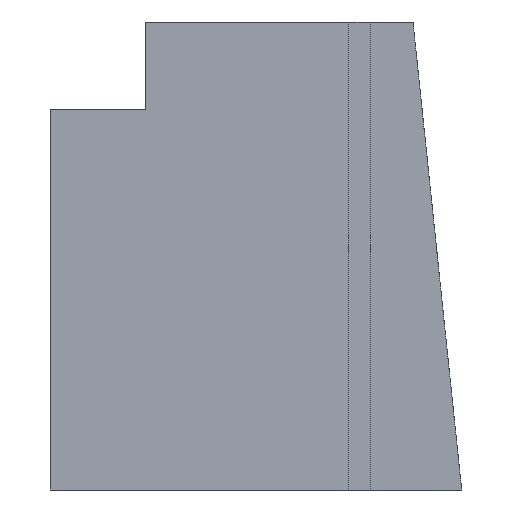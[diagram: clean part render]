
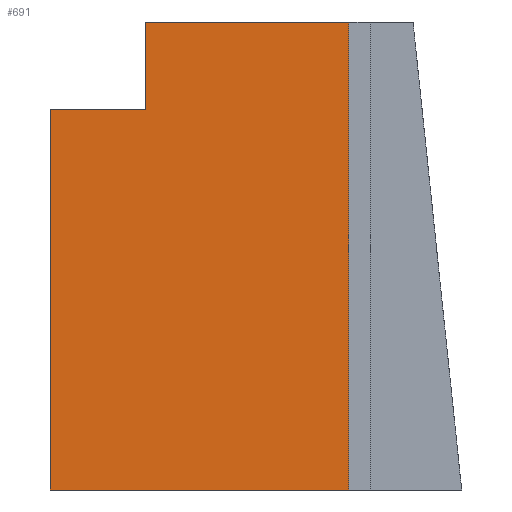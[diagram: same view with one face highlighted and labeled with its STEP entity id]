
A CAD part, left-side view. The second image highlights one B-rep face of the part: STEP entity #691.
In plain terms, the highlighted planar face has unit normal (-1, 0, 0).
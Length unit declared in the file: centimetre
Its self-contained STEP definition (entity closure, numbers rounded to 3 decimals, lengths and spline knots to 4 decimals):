
#9 = LINE ( 'NONE', #754, #207 ) ;
#11 = VERTEX_POINT ( 'NONE', #129 ) ;
#27 = CARTESIAN_POINT ( 'NONE',  ( 0., 1000., 1000. ) ) ;
#57 = ORIENTED_EDGE ( 'NONE', *, *, #570, .F. ) ;
#88 = DIRECTION ( 'NONE',  ( 0., 0., 1. ) ) ;
#110 = FACE_OUTER_BOUND ( 'NONE', #279, .T. ) ;
#112 = EDGE_CURVE ( 'NONE', #650, #11, #642, .T. ) ;
#129 = CARTESIAN_POINT ( 'NONE',  ( 0., 796.9242, 1000. ) ) ;
#195 = DIRECTION ( 'NONE',  ( 0., 0., -1. ) ) ;
#207 = VECTOR ( 'NONE', #228, 100. ) ;
#228 = DIRECTION ( 'NONE',  ( 0., -1., 0. ) ) ;
#233 = VECTOR ( 'NONE', #88, 100. ) ;
#240 = EDGE_CURVE ( 'NONE', #532, #703, #799, .T. ) ;
#247 = DIRECTION ( 'NONE',  ( 0., -1., 0. ) ) ;
#251 = CARTESIAN_POINT ( 'NONE',  ( 0., 1000., 813.6951 ) ) ;
#271 = CARTESIAN_POINT ( 'NONE',  ( 0., 362.4467, 1000. ) ) ;
#279 = EDGE_LOOP ( 'NONE', ( #463, #580, #57, #674, #442, #427 ) ) ;
#335 = CARTESIAN_POINT ( 'NONE',  ( 0., 362.4467, 0. ) ) ;
#370 = PLANE ( 'NONE',  #793 ) ;
#387 = DIRECTION ( 'NONE',  ( 1., 0., 0. ) ) ;
#392 = LINE ( 'NONE', #335, #810 ) ;
#398 = DIRECTION ( 'NONE',  ( 0., 0., 1. ) ) ;
#415 = VECTOR ( 'NONE', #701, 100. ) ;
#427 = ORIENTED_EDGE ( 'NONE', *, *, #818, .T. ) ;
#442 = ORIENTED_EDGE ( 'NONE', *, *, #538, .F. ) ;
#463 = ORIENTED_EDGE ( 'NONE', *, *, #240, .T. ) ;
#472 = LINE ( 'NONE', #808, #619 ) ;
#508 = CARTESIAN_POINT ( 'NONE',  ( 0., 796.9242, 813.6951 ) ) ;
#532 = VERTEX_POINT ( 'NONE', #779 ) ;
#538 = EDGE_CURVE ( 'NONE', #684, #650, #564, .T. ) ;
#546 = VECTOR ( 'NONE', #247, 100. ) ;
#564 = LINE ( 'NONE', #846, #415 ) ;
#565 = CARTESIAN_POINT ( 'NONE',  ( 0., 796.9242, 813.6951 ) ) ;
#570 = EDGE_CURVE ( 'NONE', #11, #842, #9, .T. ) ;
#580 = ORIENTED_EDGE ( 'NONE', *, *, #888, .T. ) ;
#619 = VECTOR ( 'NONE', #195, 100. ) ;
#642 = LINE ( 'NONE', #565, #233 ) ;
#650 = VERTEX_POINT ( 'NONE', #508 ) ;
#674 = ORIENTED_EDGE ( 'NONE', *, *, #112, .F. ) ;
#684 = VERTEX_POINT ( 'NONE', #251 ) ;
#691 = ADVANCED_FACE ( 'NONE', ( #110 ), #370, .F. ) ;
#701 = DIRECTION ( 'NONE',  ( 0., -1., 0. ) ) ;
#703 = VERTEX_POINT ( 'NONE', #724 ) ;
#717 = CARTESIAN_POINT ( 'NONE',  ( 0., 1000., 0. ) ) ;
#724 = CARTESIAN_POINT ( 'NONE',  ( 0., 362.4467, 0. ) ) ;
#754 = CARTESIAN_POINT ( 'NONE',  ( 0., 1000., 1000. ) ) ;
#779 = CARTESIAN_POINT ( 'NONE',  ( 0., 1000., 0. ) ) ;
#793 = AXIS2_PLACEMENT_3D ( 'NONE', #27, #387, #861 ) ;
#799 = LINE ( 'NONE', #717, #546 ) ;
#808 = CARTESIAN_POINT ( 'NONE',  ( 0., 1000., 1000. ) ) ;
#810 = VECTOR ( 'NONE', #398, 100. ) ;
#818 = EDGE_CURVE ( 'NONE', #684, #532, #472, .T. ) ;
#842 = VERTEX_POINT ( 'NONE', #271 ) ;
#846 = CARTESIAN_POINT ( 'NONE',  ( 0., 796.9242, 813.6951 ) ) ;
#861 = DIRECTION ( 'NONE',  ( 0., 0., -1. ) ) ;
#888 = EDGE_CURVE ( 'NONE', #703, #842, #392, .T. ) ;
